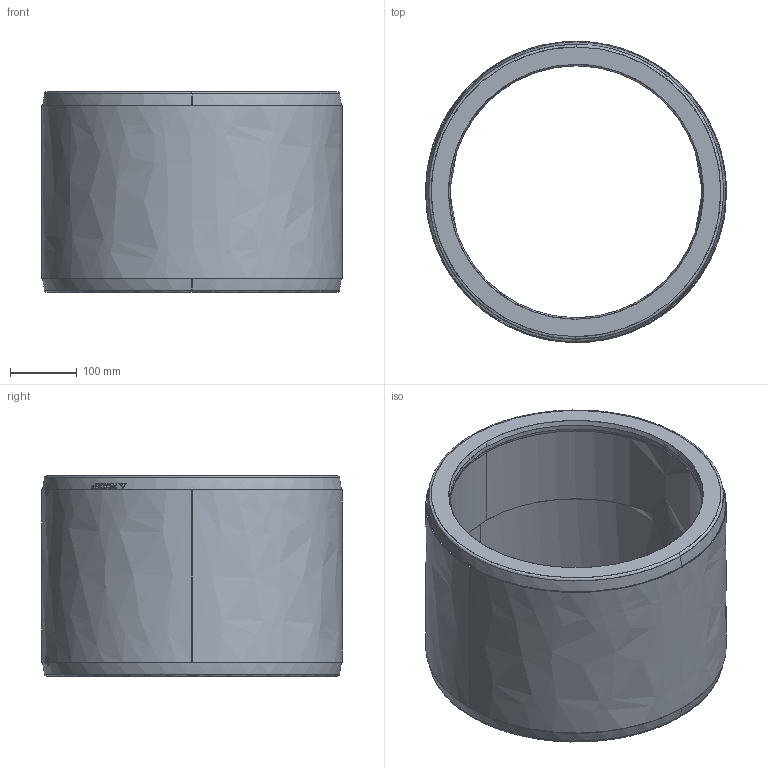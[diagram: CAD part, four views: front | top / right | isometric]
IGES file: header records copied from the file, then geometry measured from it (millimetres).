
Start section:  PTC IGES file: rem_d400_dn375_01.igs
Global section: file name: rem_d400_dn375_01.igs; native system: Pro/ENGINEER by Parametric Technology Corporation; preprocessor: 2011490; author: mtunjic; organization: Unknown; date: 20130806.112433; units: millimetre
Bounding box: 450 x 450 x 300 mm (x, y, z)
Surface area: 871348.7 mm2 (no closed solid volume)
Topology: 0 solids, 0 shells, 169 faces, 882 edges, 882 vertices
Faces by surface type: bspline 169
